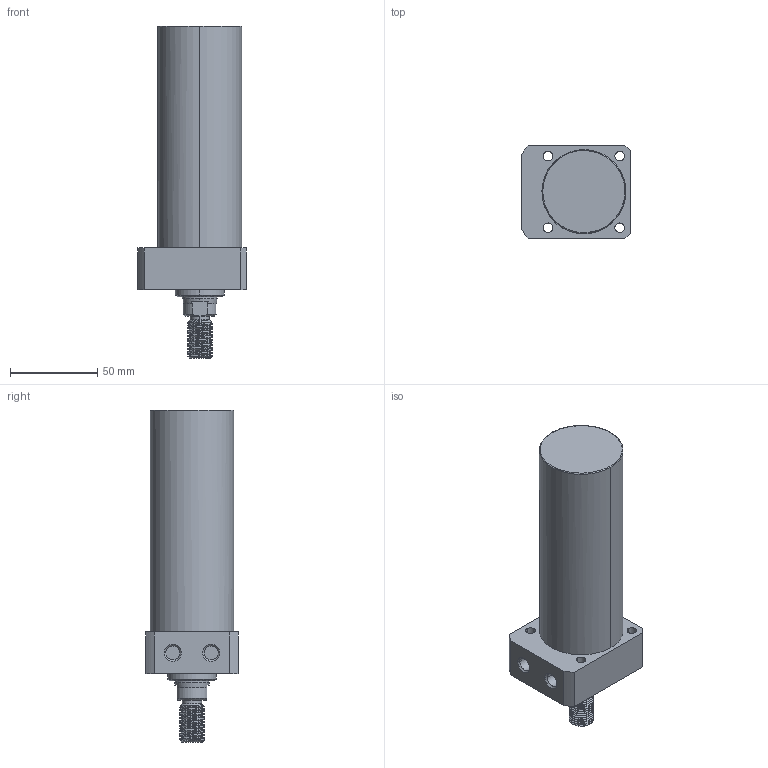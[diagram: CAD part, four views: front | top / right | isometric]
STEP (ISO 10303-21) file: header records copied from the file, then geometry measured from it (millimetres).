
FILE_DESCRIPTION((' '),'2;1');
FILE_NAME( 'TLLR-048CT-100.STEP.stp', '2025-10-24T16:34:36', (' '), ('--- Datakit www.datakit.com---'), ' Datakit CrossCadWare V2024.1 Dec 21 2023', 'Mastercam 2025', ' ');
FILE_SCHEMA(('AUTOMOTIVE_DESIGN { 1 0 10303 214 1 1 1 1 }'));
Length unit declared in the file: millimetre
Products named in the file (1): TLLR-048CT-100
Bounding box: 62 x 53 x 190 mm (x, y, z)
Volume: 312821.2 mm3; surface area: 35764.4 mm2
Topology: 1 solids, 1 shells, 96 faces, 329 edges, 243 vertices
Faces by surface type: cylinder 56, plane 20, cone 16, torus 2, bspline 2
Entity records: 10036 total; most frequent: CARTESIAN_POINT 7140, ORIENTED_EDGE 658, DIRECTION 499, EDGE_CURVE 329, VERTEX_POINT 243, AXIS2_PLACEMENT_3D 204, B_SPLINE_CURVE_WITH_KNOTS 129, EDGE_LOOP 112
